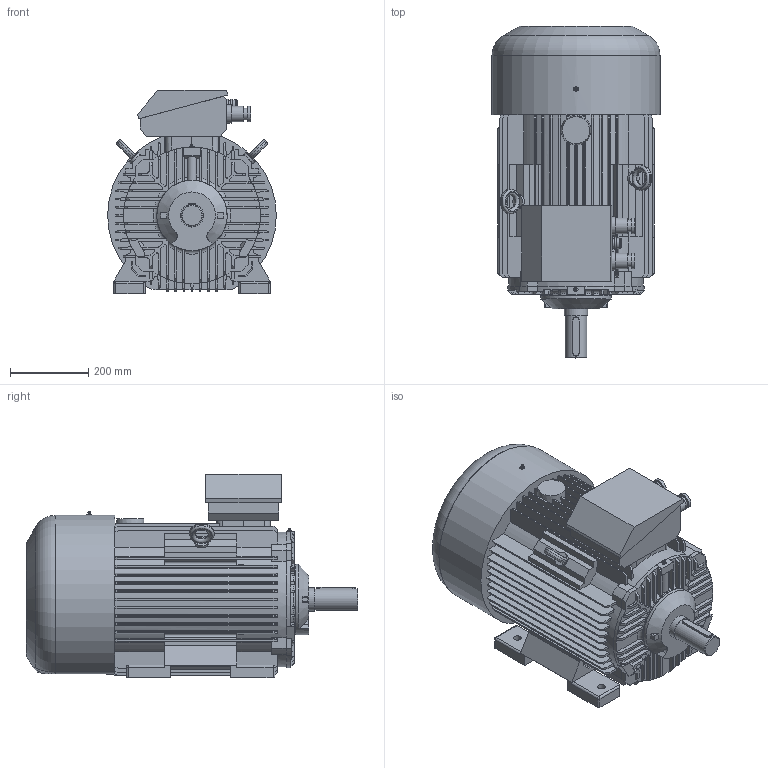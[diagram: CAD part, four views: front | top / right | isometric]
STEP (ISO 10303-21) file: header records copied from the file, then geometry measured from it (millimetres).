
FILE_DESCRIPTION(/* description */ ('Unknown'),/* implementation_level */ '2;1');
FILE_NAME(/* name */ '3SIE200L2_8',/* time_stamp */ '2021-04-12T13:04:45+02:00',/* author */ ('Unknown'),/* organization */ ('Unknown'),/* preprocessor_version */ 'ST-DEVELOPER v16.7',/* originating_system */ 'DEX',/* authorisation */ $);
FILE_SCHEMA (('AUTOMOTIVE_DESIGN {1 0 10303 214 3 1 1}'));
Length unit declared in the file: millimetre
Products named in the file (1): 3SIE 200 silnik
Bounding box: 432.02 x 850.06 x 520 mm (x, y, z)
Volume: 86075030.3 mm3; surface area: 2545507.3 mm2
Topology: 1 solids, 4 shells, 1014 faces, 2885 edges, 1904 vertices
Faces by surface type: plane 775, cylinder 185, torus 38, cone 9, sphere 4, bspline 3
Full cylindrical faces by diameter (mm): 1.6 x2, 5 x5, 16.891 x1, 19 x4, 24 x1, 26.969 x1, 30 x4, 30.249 x1, 31 x1, 35 x4, 40 x4, 47 x2, 55 x1, 59.498 x1, 178 x1, 180 x1
Entity records: 40034 total; most frequent: CARTESIAN_POINT 6523, ORIENTED_EDGE 5624, DIRECTION 5273, EDGE_CURVE 2812, LINE 2135, VECTOR 2135, VERTEX_POINT 1890, AXIS2_PLACEMENT_3D 1569
